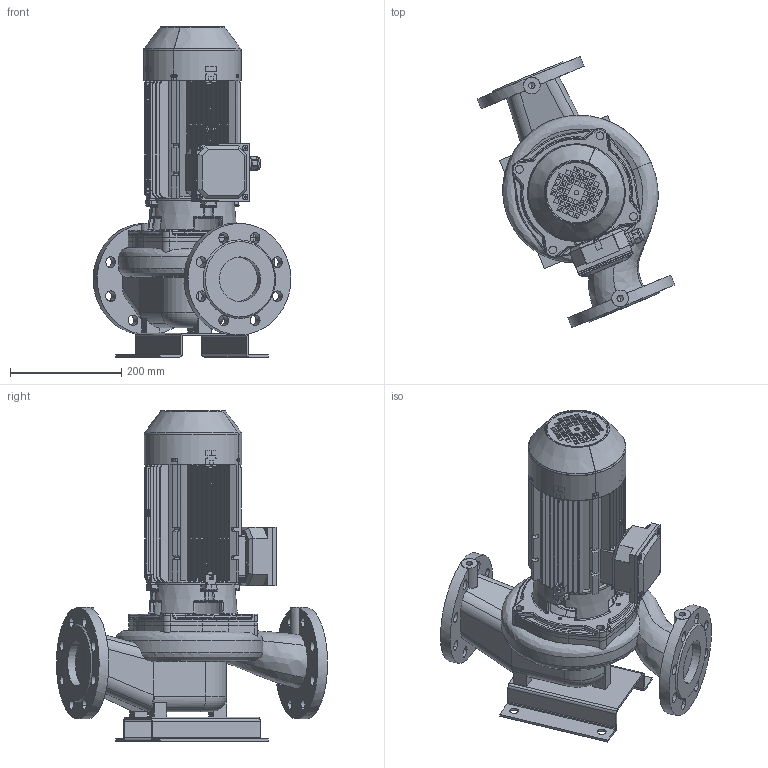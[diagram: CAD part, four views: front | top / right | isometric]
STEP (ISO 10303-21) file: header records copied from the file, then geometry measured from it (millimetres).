
FILE_DESCRIPTION(('STEP AP214'),'1');
FILE_NAME('export.stp','2018-05-28T12:19:07',(' '),(' '),'Spatial InterOp 3D',' ',' ');
FILE_SCHEMA(('AUTOMOTIVE_DESIGN { 1 0 10303 214 1 1 1 1 }'));
Length unit declared in the file: millimetre
Products named in the file (25): W_ALS10812220KP90; V_TLL65AB80A1102; V_PPAL1081; V_JALKA35973; 160024; 160004_Valu; V_MKP90_1_F19; M5x8_DIN; DIN_7985-M5X8; 160141; M5x12_DIN; DIN_7985-M5X12; 160137; 160138; 160139; 160140; Koura_Ale_M5; Plug_Blind_M20; Sealing_Plug_M20; 160048___; 160068___; 160135
Assembly tree (27 placements, depth 5):
  W_ALS10812220KP90
    V_TLL65AB80A1102
    V_PPAL1081
    V_JALKA35973
    V_MKP90_1_F19
      160024
        160004_Valu
      160141
        M5x8_DIN
          DIN_7985-M5X8
        M5x12_DIN
          DIN_7985-M5X12
        M5x12_DIN
          DIN_7985-M5X12
        M5x12_DIN
          DIN_7985-M5X12
        M5x12_DIN
          DIN_7985-M5X12
        160137
        160138
        160139
        160140
        Koura_Ale_M5
        Plug_Blind_M20
        Sealing_Plug_M20
      160048___
      160068___
      160135
Bounding box: 354.82 x 486.75 x 592.99 mm (x, y, z)
Volume: 8968307.7 mm3; surface area: 1551867 mm2
Topology: 20 solids, 20 shells, 2609 faces, 6962 edges, 4371 vertices
Faces by surface type: plane 1046, cylinder 820, bspline 279, torus 276, cone 151, sphere 37
Entity records: 102992 total; most frequent: CARTESIAN_POINT 36470, ORIENTED_EDGE 13480, DIRECTION 12481, EDGE_CURVE 6740, AXIS2_PLACEMENT_3D 4725, VERTEX_POINT 4275, LINE 3031, VECTOR 3031
